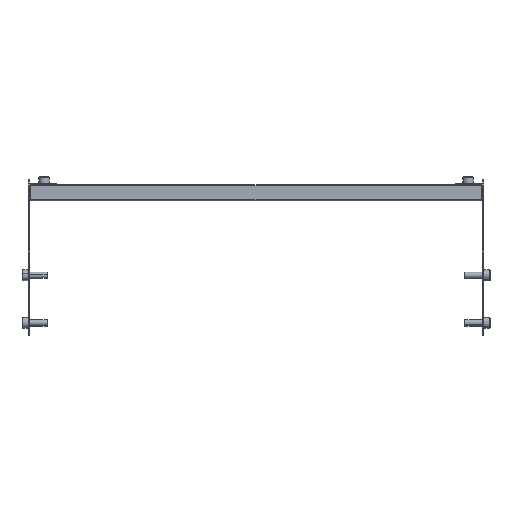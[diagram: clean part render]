
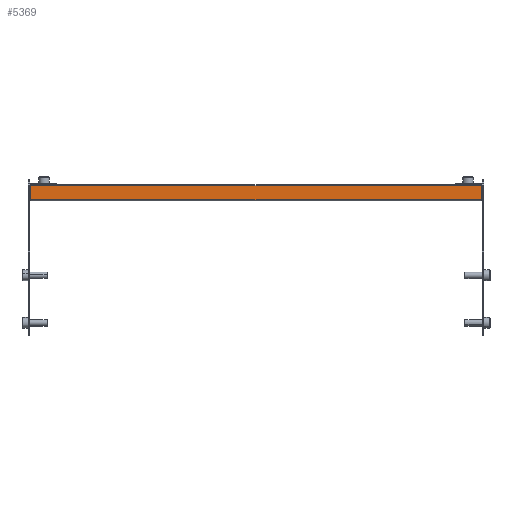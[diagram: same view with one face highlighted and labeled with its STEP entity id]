
A CAD part, front view. The second image highlights one B-rep face of the part: STEP entity #5369.
In plain terms, the highlighted planar face has unit normal (0, -1, 0) as drawn and (1, 0, 0) by its records, which use the part's own axes.
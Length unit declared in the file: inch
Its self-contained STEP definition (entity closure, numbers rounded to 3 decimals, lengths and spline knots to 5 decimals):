
#3493=DIRECTION('',(0.,0.,1.));
#3494=VECTOR('',#3493,16.6035);
#3495=CARTESIAN_POINT('',(0.78127,-0.26528,-8.30175));
#3496=LINE('',#3495,#3494);
#3907=DIRECTION('',(0.,-1.,0.));
#3908=VECTOR('',#3907,0.53055);
#3909=CARTESIAN_POINT('',(0.78127,0.26528,-8.30175));
#3910=LINE('',#3909,#3908);
#4260=DIRECTION('',(0.,-1.,0.));
#4261=VECTOR('',#4260,0.53055);
#4262=CARTESIAN_POINT('',(0.78127,0.26528,8.30175));
#4263=LINE('',#4262,#4261);
#4268=DIRECTION('',(0.,0.,-1.));
#4269=VECTOR('',#4268,16.6035);
#4270=CARTESIAN_POINT('',(0.78127,0.26528,8.30175));
#4271=LINE('',#4270,#4269);
#4516=CARTESIAN_POINT('',(0.78127,0.26528,8.30175));
#4517=CARTESIAN_POINT('',(0.78127,0.26528,-8.30175));
#4518=VERTEX_POINT('',#4516);
#4519=VERTEX_POINT('',#4517);
#4565=CARTESIAN_POINT('',(0.78127,-0.26528,8.30175));
#4567=VERTEX_POINT('',#4565);
#4726=CARTESIAN_POINT('',(0.78127,-0.26528,-8.30175));
#4727=VERTEX_POINT('',#4726);
#5357=CARTESIAN_POINT('',(0.78127,0.29528,8.30175));
#5358=DIRECTION('',(-1.,0.,0.));
#5359=DIRECTION('',(0.,0.,1.));
#5360=AXIS2_PLACEMENT_3D('',#5357,#5358,#5359);
#5361=PLANE('',#5360);
#5362=ORIENTED_EDGE('',*,*,#4799,.F.);
#5364=ORIENTED_EDGE('',*,*,#5363,.T.);
#5365=ORIENTED_EDGE('',*,*,#5002,.T.);
#5366=ORIENTED_EDGE('',*,*,#4777,.T.);
#5367=EDGE_LOOP('',(#5362,#5364,#5365,#5366));
#5368=FACE_OUTER_BOUND('',#5367,.F.);
#4777=EDGE_CURVE('',#4727,#4567,#3496,.T.);
#4799=EDGE_CURVE('',#4518,#4567,#4263,.T.);
#5002=EDGE_CURVE('',#4519,#4727,#3910,.T.);
#5363=EDGE_CURVE('',#4518,#4519,#4271,.T.);
#5369=ADVANCED_FACE('',(#5368),#5361,.F.);
